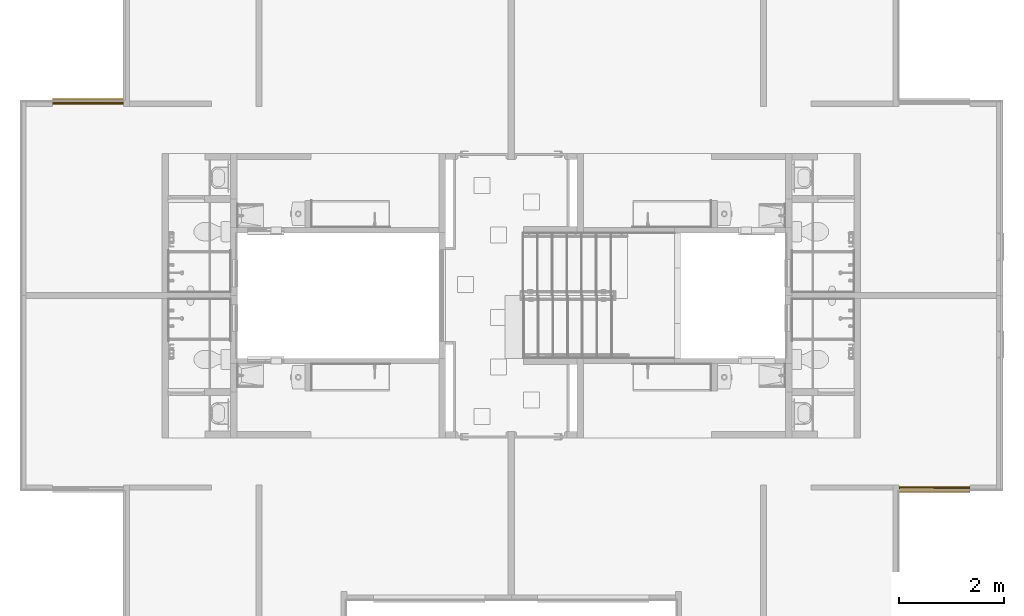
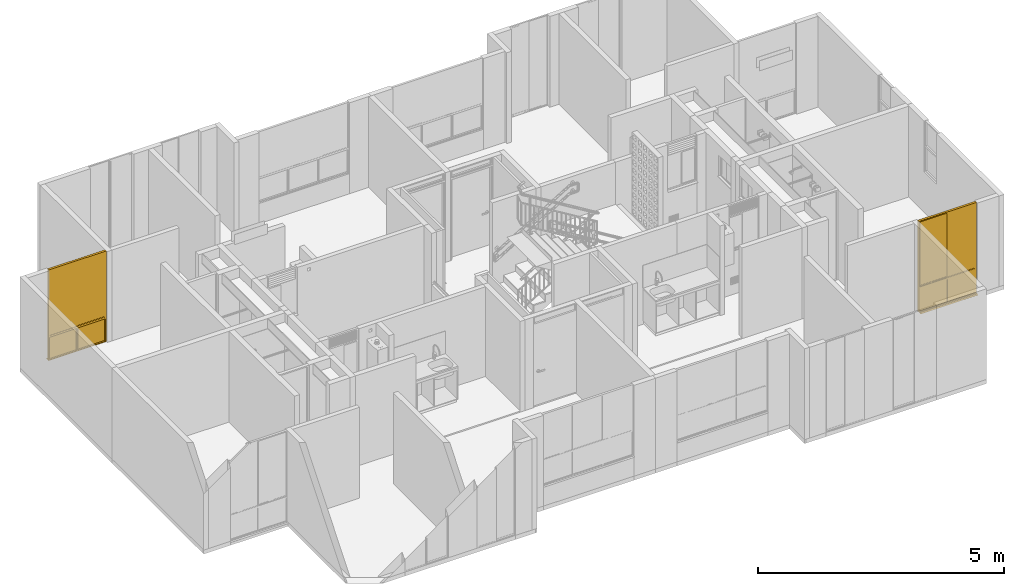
# One storey, part 35 of 48: 2 windows.
"""IFC4 building model written with IfcOpenShell, lengths in metres."""

from ifc_helpers import new_model, entity, si_unit, converted_unit, derived_unit, direction, frame, origin, place, context, subcontext, project, spatial, polygons, source, transform, mapped, material, constituent, constituent_set, type_object, type_shapes, element, save


model = new_model("IFC4")

# Units and contexts
model_context = context("Model", 3, precision=1e-05, world=origin(), true_north=direction((6.123031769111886e-17, 1.0)))
body_context = subcontext(model_context, "Body", "Model", "MODEL_VIEW")
ifc_project = project(units=[si_unit("LENGTHUNIT", "METRE"), si_unit("AREAUNIT", "SQUARE_METRE"), si_unit("VOLUMEUNIT", "CUBIC_METRE"), converted_unit("PLANEANGLEUNIT", "DEGREE", entity("IfcRatioMeasure", 0.017453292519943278), si_unit("PLANEANGLEUNIT", "RADIAN"), dimensions=[0, 0, 0, 0, 0, 0, 0]), si_unit("MASSUNIT", "GRAM", prefix="KILO"), derived_unit("MASSDENSITYUNIT", [(si_unit("MASSUNIT", "GRAM", prefix="KILO"), 1), (si_unit("LENGTHUNIT", "METRE"), -3)]), derived_unit("IONCONCENTRATIONUNIT", [(si_unit("MASSUNIT", "GRAM", prefix="KILO"), 1), (si_unit("LENGTHUNIT", "METRE"), -3)]), derived_unit("MOMENTOFINERTIAUNIT", [(si_unit("LENGTHUNIT", "METRE"), 4)]), si_unit("TIMEUNIT", "SECOND"), si_unit("FREQUENCYUNIT", "HERTZ"), si_unit("THERMODYNAMICTEMPERATUREUNIT", "DEGREE_CELSIUS"), derived_unit("THERMALTRANSMITTANCEUNIT", [(si_unit("MASSUNIT", "GRAM", prefix="KILO"), 1), (si_unit("THERMODYNAMICTEMPERATUREUNIT", "KELVIN"), -1), (si_unit("TIMEUNIT", "SECOND"), -3)]), derived_unit("THERMALCONDUCTANCEUNIT", [(si_unit("MASSUNIT", "GRAM", prefix="KILO"), 1), (si_unit("THERMODYNAMICTEMPERATUREUNIT", "KELVIN"), -1), (si_unit("TIMEUNIT", "SECOND"), -3), (si_unit("LENGTHUNIT", "METRE"), 1)]), derived_unit("VOLUMETRICFLOWRATEUNIT", [(si_unit("LENGTHUNIT", "METRE"), 3), (si_unit("TIMEUNIT", "SECOND"), -1)]), derived_unit("MASSFLOWRATEUNIT", [(si_unit("MASSUNIT", "GRAM", prefix="KILO"), 1), (si_unit("TIMEUNIT", "SECOND"), -1)]), derived_unit("ROTATIONALFREQUENCYUNIT", [(si_unit("TIMEUNIT", "SECOND"), -1)]), si_unit("ELECTRICCURRENTUNIT", "AMPERE"), si_unit("ELECTRICVOLTAGEUNIT", "VOLT"), si_unit("POWERUNIT", "WATT"), si_unit("FORCEUNIT", "NEWTON", prefix="KILO"), si_unit("ILLUMINANCEUNIT", "LUX"), si_unit("LUMINOUSFLUXUNIT", "LUMEN"), si_unit("LUMINOUSINTENSITYUNIT", "CANDELA"), derived_unit("USERDEFINED", [(si_unit("MASSUNIT", "GRAM", prefix="KILO"), -1), (si_unit("LENGTHUNIT", "METRE"), -2), (si_unit("TIMEUNIT", "SECOND"), 3), (si_unit("LUMINOUSFLUXUNIT", "LUMEN"), 1)]), derived_unit("USERDEFINED", [(si_unit("MASSUNIT", "GRAM", prefix="KILO"), 1), (si_unit("TIMEUNIT", "SECOND"), -3), (si_unit("LENGTHUNIT", "METRE"), 3), (si_unit("ELECTRICCURRENTUNIT", "AMPERE"), -2)]), derived_unit("SOUNDPOWERUNIT", [(si_unit("MASSUNIT", "GRAM", prefix="KILO"), 1), (si_unit("TIMEUNIT", "SECOND"), -3), (si_unit("LENGTHUNIT", "METRE"), 2)]), derived_unit("SOUNDPRESSUREUNIT", [(si_unit("MASSUNIT", "GRAM", prefix="KILO"), 1), (si_unit("LENGTHUNIT", "METRE"), -1), (si_unit("TIMEUNIT", "SECOND"), -2)]), derived_unit("LINEARVELOCITYUNIT", [(si_unit("LENGTHUNIT", "METRE"), 1), (si_unit("TIMEUNIT", "SECOND"), -1)]), si_unit("PRESSUREUNIT", "PASCAL"), derived_unit("USERDEFINED", [(si_unit("MASSUNIT", "GRAM", prefix="KILO"), 1), (si_unit("LENGTHUNIT", "METRE"), -2), (si_unit("TIMEUNIT", "SECOND"), -2)]), derived_unit("LINEARFORCEUNIT", [(si_unit("MASSUNIT", "GRAM", prefix="KILO"), 1), (si_unit("TIMEUNIT", "SECOND"), -2)]), derived_unit("PLANARFORCEUNIT", [(si_unit("MASSUNIT", "GRAM", prefix="KILO"), 1), (si_unit("LENGTHUNIT", "METRE"), -1), (si_unit("TIMEUNIT", "SECOND"), -2)]), derived_unit("SPECIFICHEATCAPACITYUNIT", [(si_unit("THERMODYNAMICTEMPERATUREUNIT", "KELVIN"), -1), (si_unit("LENGTHUNIT", "METRE"), 2), (si_unit("TIMEUNIT", "SECOND"), -2)]), derived_unit("HEATINGVALUEUNIT", [(si_unit("LENGTHUNIT", "METRE"), 2), (si_unit("TIMEUNIT", "SECOND"), -2)]), derived_unit("VAPORPERMEABILITYUNIT", [(si_unit("LENGTHUNIT", "METRE"), -1), (si_unit("TIMEUNIT", "SECOND"), 1)]), derived_unit("DYNAMICVISCOSITYUNIT", [(si_unit("MASSUNIT", "GRAM", prefix="KILO"), 1), (si_unit("TIMEUNIT", "SECOND"), -1), (si_unit("LENGTHUNIT", "METRE"), -1)]), derived_unit("THERMALEXPANSIONCOEFFICIENTUNIT", [(si_unit("THERMODYNAMICTEMPERATUREUNIT", "KELVIN"), -1)]), derived_unit("MODULUSOFELASTICITYUNIT", [(si_unit("MASSUNIT", "GRAM", prefix="KILO"), 1), (si_unit("LENGTHUNIT", "METRE"), -1), (si_unit("TIMEUNIT", "SECOND"), -2)]), derived_unit("ISOTHERMALMOISTURECAPACITYUNIT", [(si_unit("LENGTHUNIT", "METRE"), 3), (si_unit("MASSUNIT", "GRAM", prefix="KILO"), -1)]), derived_unit("MOISTUREDIFFUSIVITYUNIT", [(si_unit("TIMEUNIT", "SECOND"), -1), (si_unit("LENGTHUNIT", "METRE"), 2)])], contexts=[model_context])

# Site, building, storey
site_placement = place(None, origin())
site = spatial("IfcSite", under=ifc_project, at=site_placement, Name="Default", CompositionType="ELEMENT")
building_placement = place(site_placement, origin())
building = spatial("IfcBuilding", under=site, at=building_placement, CompositionType="ELEMENT")
storey_placement = place(building_placement, frame((0.0, 0.0, 7.050000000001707)))
storey = spatial("IfcBuildingStorey", under=building, at=storey_placement, Name="Nivel 4", CompositionType="ELEMENT", Elevation=7.050000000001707)

# Windows
ifc_material_1 = material(Name="Vidrio", Category="Materials")
ifc_constituent_1 = constituent(ifc_material_1, Name="Vidrio", Category="Materials")
ifc_material_2 = material(Name="Aluminio", Category="Materials")
ifc_constituent_2 = constituent(ifc_material_2, Name="Aluminio", Category="Materials")
ifc_material_3 = material(Name="<Unnamed>")
ifc_constituent_3 = constituent(ifc_material_3, Name="<Unnamed>")
ifc_constituent_set_1 = constituent_set(constituents=[ifc_constituent_1, ifc_constituent_2, ifc_constituent_3])
ifc_constituent_4 = constituent(ifc_material_1, Name="Vidrio", Category="Materials")
ifc_constituent_5 = constituent(ifc_material_2, Name="Aluminio", Category="Materials")
ifc_constituent_6 = constituent(ifc_material_3, Name="<Unnamed>")
ifc_constituent_set_2 = constituent_set(constituents=[ifc_constituent_4, ifc_constituent_5, ifc_constituent_6])
window_type = type_object("IfcWindowType", Name="B2020 - Ventana corrediza - Aluminio + Vidrio:B2020 - 1.35m x 2.25m - Ventana corrediza 2C - Aluminio + Vidrio", PartitioningType="NOTDEFINED", PredefinedType="WINDOW", material=ifc_constituent_set_2)
shared_shape = source(origin(), body_context, "Body", "Tessellation", [
    polygons([(0.020000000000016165, 0.044249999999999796, 2.2300000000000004), (0.020000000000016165, 0.044249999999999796, 0.6174999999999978), (0.6750000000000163, 0.04424999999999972, 0.6174999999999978), (0.6750000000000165, 0.04424999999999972, 2.2300000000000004), (0.6750000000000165, 0.04824999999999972, 2.2300000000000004), (0.020000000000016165, 0.04824999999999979, 2.2300000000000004), (0.6750000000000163, 0.04824999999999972, 0.6174999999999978), (0.020000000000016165, 0.04824999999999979, 0.6174999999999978)], [[[1, 2, 3, 4]], [[4, 5, 6, 1]], [[3, 7, 5, 4]], [[1, 6, 8, 2]], [[6, 5, 7, 8]], [[2, 8, 7, 3]]], closed=True),
    polygons([(1.3300000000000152, 0.04424999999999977, 2.2300000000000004), (0.6700000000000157, 0.044249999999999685, 2.2300000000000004), (0.6700000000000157, 0.044249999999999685, 0.6174999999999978), (1.3300000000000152, 0.04424999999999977, 0.6174999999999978), (1.3300000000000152, 0.048249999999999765, 0.6174999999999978), (1.3300000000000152, 0.048249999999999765, 2.2300000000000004), (0.6700000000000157, 0.04824999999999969, 2.2300000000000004), (0.6700000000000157, 0.04824999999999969, 0.6174999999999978)], [[[1, 2, 3, 4]], [[4, 5, 6, 1]], [[2, 7, 8, 3]], [[1, 6, 7, 2]], [[6, 5, 8, 7]], [[3, 8, 5, 4]]], closed=True),
    polygons([(0.6700000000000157, 0.048249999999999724, 0.6174999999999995), (0.6700000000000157, 0.048249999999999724, 2.230000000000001), (0.6700000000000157, 0.044249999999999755, 2.230000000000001), (0.6700000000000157, 0.044249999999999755, 0.6174999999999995), (1.3300000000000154, 0.04424999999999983, 2.230000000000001), (1.3300000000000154, 0.04424999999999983, 0.6174999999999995), (0.685000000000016, 0.044249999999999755, 2.2150000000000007), (0.685000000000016, 0.044249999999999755, 0.6324999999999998), (1.315000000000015, 0.04424999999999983, 0.6324999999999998), (1.315000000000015, 0.04424999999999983, 2.2150000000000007), (1.3300000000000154, 0.0482499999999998, 2.230000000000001), (1.3300000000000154, 0.0482499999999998, 0.6174999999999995), (0.685000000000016, 0.048249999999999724, 0.6324999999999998), (0.685000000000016, 0.048249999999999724, 2.2150000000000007), (1.315000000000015, 0.04824999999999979, 2.2150000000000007), (1.315000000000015, 0.04824999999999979, 0.6324999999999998), (0.685000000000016, 0.05299999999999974, 0.6324999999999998), (0.685000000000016, 0.05299999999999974, 2.2150000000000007), (1.315000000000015, 0.05299999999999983, 2.2150000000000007), (1.315000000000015, 0.05299999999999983, 0.6324999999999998), (0.6650000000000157, 0.05299999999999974, 0.6124999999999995), (0.6650000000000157, 0.05299999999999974, 2.2350000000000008), (1.3350000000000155, 0.05299999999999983, 2.2350000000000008), (1.3350000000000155, 0.05299999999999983, 0.6124999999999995), (0.6650000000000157, 0.03949999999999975, 0.6124999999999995), (0.6650000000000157, 0.03949999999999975, 2.2350000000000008), (1.3350000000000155, 0.03949999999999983, 2.2350000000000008), (1.3350000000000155, 0.03949999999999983, 0.6124999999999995), (0.685000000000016, 0.03949999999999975, 0.6324999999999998), (0.685000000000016, 0.03949999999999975, 2.2150000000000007), (1.315000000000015, 0.03949999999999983, 2.2150000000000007), (1.315000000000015, 0.03949999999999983, 0.6324999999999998)], [[[1, 2, 3, 4]], [[4, 3, 5, 6], [7, 8, 9, 10]], [[2, 11, 5, 3]], [[2, 1, 12, 11], [13, 14, 15, 16]], [[17, 18, 14, 13]], [[18, 19, 15, 14]], [[21, 22, 23, 24], [18, 17, 20, 19]], [[25, 26, 22, 21]], [[26, 27, 23, 22]], [[26, 25, 28, 27], [29, 30, 31, 32]], [[8, 7, 30, 29]], [[7, 10, 31, 30]], [[11, 12, 6, 5]], [[19, 20, 16, 15]], [[27, 28, 24, 23]], [[10, 9, 32, 31]], [[12, 1, 4, 6]], [[20, 17, 13, 16]], [[28, 25, 21, 24]], [[9, 8, 29, 32]]], closed=True),
    polygons([(0.6800000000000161, 0.06674999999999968, 2.229999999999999), (0.02000000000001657, 0.06674999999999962, 2.229999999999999), (0.02000000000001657, 0.06674999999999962, 0.6174999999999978), (0.6800000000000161, 0.06674999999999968, 0.6174999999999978), (0.6800000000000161, 0.07074999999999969, 0.6174999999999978), (0.6800000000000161, 0.07074999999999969, 2.229999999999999), (0.02000000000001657, 0.0707499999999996, 2.229999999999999), (0.02000000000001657, 0.0707499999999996, 0.6174999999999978)], [[[1, 2, 3, 4]], [[4, 5, 6, 1]], [[2, 7, 8, 3]], [[1, 6, 7, 2]], [[6, 5, 8, 7]], [[3, 8, 5, 4]]], closed=True),
    polygons([(0.020000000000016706, 0.07074999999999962, 0.6175), (0.020000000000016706, 0.07074999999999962, 2.2299999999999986), (0.020000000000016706, 0.06674999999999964, 2.2299999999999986), (0.020000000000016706, 0.06674999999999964, 0.6175), (0.6800000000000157, 0.06674999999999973, 2.2299999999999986), (0.6800000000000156, 0.06674999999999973, 0.6175000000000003), (0.035000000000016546, 0.06674999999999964, 2.214999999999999), (0.035000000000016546, 0.06674999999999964, 0.6324999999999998), (0.6650000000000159, 0.06674999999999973, 0.6324999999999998), (0.6650000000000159, 0.06674999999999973, 2.214999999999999), (0.6800000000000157, 0.0707499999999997, 2.2299999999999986), (0.6800000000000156, 0.0707499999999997, 0.6175), (0.035000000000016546, 0.07074999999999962, 0.6324999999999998), (0.035000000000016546, 0.07074999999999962, 2.214999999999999), (0.6650000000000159, 0.0707499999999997, 2.214999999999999), (0.6650000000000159, 0.0707499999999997, 0.6324999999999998), (0.035000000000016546, 0.07549999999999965, 0.6324999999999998), (0.035000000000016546, 0.07549999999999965, 2.214999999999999), (0.6650000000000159, 0.07549999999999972, 2.214999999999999), (0.6650000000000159, 0.07549999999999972, 0.6324999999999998), (0.015000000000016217, 0.07549999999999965, 0.6124999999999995), (0.015000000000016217, 0.07549999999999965, 2.2349999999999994), (0.6850000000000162, 0.07549999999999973, 2.2349999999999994), (0.685000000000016, 0.07549999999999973, 0.6124999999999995), (0.015000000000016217, 0.06199999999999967, 0.6124999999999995), (0.015000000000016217, 0.06199999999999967, 2.2349999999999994), (0.6850000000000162, 0.06199999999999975, 2.2349999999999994), (0.685000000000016, 0.06199999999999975, 0.6124999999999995), (0.035000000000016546, 0.06199999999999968, 0.6324999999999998), (0.035000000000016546, 0.06199999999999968, 2.214999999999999), (0.6650000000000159, 0.06199999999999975, 2.214999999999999), (0.6650000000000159, 0.06199999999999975, 0.6324999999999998)], [[[1, 2, 3, 4]], [[4, 3, 5, 6], [7, 8, 9, 10]], [[2, 11, 5, 3]], [[2, 1, 12, 11], [13, 14, 15, 16]], [[17, 18, 14, 13]], [[18, 19, 15, 14]], [[21, 22, 23, 24], [18, 17, 20, 19]], [[25, 26, 22, 21]], [[26, 27, 23, 22]], [[26, 25, 28, 27], [29, 30, 31, 32]], [[8, 7, 30, 29]], [[7, 10, 31, 30]], [[11, 12, 6, 5]], [[19, 20, 16, 15]], [[27, 28, 24, 23]], [[10, 9, 32, 31]], [[12, 1, 4, 6]], [[20, 17, 13, 16]], [[28, 25, 21, 24]], [[9, 8, 29, 32]]], closed=True),
    polygons([(0.025000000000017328, 0.037499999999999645, 2.224999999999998), (1.3250000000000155, 0.037499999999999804, 2.2249999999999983), (1.3250000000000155, 0.03249999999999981, 2.2249999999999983), (0.025000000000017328, 0.03249999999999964, 2.224999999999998), (1.325000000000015, 0.037499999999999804, 0.6200000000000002), (1.3250000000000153, 0.03249999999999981, 0.6200000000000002), (0.025000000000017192, 0.03249999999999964, 0.6200000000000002), (1.3500000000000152, 0.03249999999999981, 0.595), (1.3500000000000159, 0.03249999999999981, 2.2499999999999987), (1.6919798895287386e-14, 0.03249999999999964, 2.2499999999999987), (1.6919798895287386e-14, 0.03249999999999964, 0.595), (0.025000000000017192, 0.037499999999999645, 0.6200000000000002), (1.345000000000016, 0.037499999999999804, 2.2449999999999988), (1.3450000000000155, 0.037499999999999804, 0.5999999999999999), (0.005000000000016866, 0.037499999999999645, 0.5999999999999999), (0.005000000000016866, 0.037499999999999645, 2.2449999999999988), (0.005000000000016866, 0.054999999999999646, 2.2449999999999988), (1.345000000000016, 0.05499999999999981, 2.2449999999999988), (1.3450000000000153, 0.05499999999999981, 0.5999999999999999), (0.005000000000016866, 0.054999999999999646, 0.5999999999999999), (1.3250000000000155, 0.054999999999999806, 2.2249999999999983), (1.3250000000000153, 0.054999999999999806, 0.6200000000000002), (0.025000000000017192, 0.05499999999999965, 0.6200000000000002), (0.025000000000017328, 0.05499999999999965, 2.2249999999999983), (0.025000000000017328, 0.05999999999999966, 2.224999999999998), (1.3250000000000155, 0.05999999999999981, 2.2249999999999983), (1.325000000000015, 0.05999999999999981, 0.6200000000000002), (0.025000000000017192, 0.05999999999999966, 0.6200000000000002), (1.345000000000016, 0.05999999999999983, 2.2449999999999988), (1.3450000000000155, 0.05999999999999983, 0.5999999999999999), (0.005000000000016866, 0.05999999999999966, 0.5999999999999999), (0.005000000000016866, 0.05999999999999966, 2.2449999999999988), (0.005000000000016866, 0.07749999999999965, 2.2449999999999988), (1.345000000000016, 0.07749999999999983, 2.2449999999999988), (1.3450000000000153, 0.07749999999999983, 0.5999999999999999), (0.005000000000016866, 0.07749999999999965, 0.5999999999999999), (1.3250000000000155, 0.07749999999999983, 2.2249999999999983), (1.3250000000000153, 0.07749999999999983, 0.6200000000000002), (0.025000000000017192, 0.07749999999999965, 0.6200000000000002), (0.025000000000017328, 0.07749999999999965, 2.2249999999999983), (0.025000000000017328, 0.08249999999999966, 2.224999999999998), (1.3250000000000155, 0.08249999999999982, 2.2249999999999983), (1.325000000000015, 0.08249999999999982, 0.6200000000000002), (0.025000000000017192, 0.08249999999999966, 0.6200000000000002), (1.3500000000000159, 0.08249999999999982, 2.2499999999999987), (1.3500000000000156, 0.08249999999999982, 0.595), (1.6919798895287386e-14, 0.08249999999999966, 0.595), (1.6919798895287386e-14, 0.08249999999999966, 2.2499999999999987)], [[[1, 2, 3, 4]], [[2, 5, 6, 3]], [[8, 9, 10, 11], [3, 6, 7, 4]], [[13, 14, 15, 16], [5, 2, 1, 12]], [[17, 18, 13, 16]], [[18, 19, 14, 13]], [[19, 18, 17, 20], [21, 22, 23, 24]], [[25, 26, 21, 24]], [[26, 27, 22, 21]], [[29, 30, 31, 32], [27, 26, 25, 28]], [[33, 34, 29, 32]], [[34, 35, 30, 29]], [[35, 34, 33, 36], [37, 38, 39, 40]], [[41, 42, 37, 40]], [[42, 43, 38, 37]], [[45, 46, 47, 48], [43, 42, 41, 44]], [[10, 9, 45, 48]], [[9, 8, 46, 45]], [[12, 1, 4, 7]], [[20, 17, 16, 15]], [[28, 25, 24, 23]], [[36, 33, 32, 31]], [[44, 41, 40, 39]], [[11, 10, 48, 47]], [[5, 12, 7, 6]], [[19, 20, 15, 14]], [[27, 28, 23, 22]], [[35, 36, 31, 30]], [[43, 44, 39, 38]], [[8, 11, 47, 46]]], closed=True),
    polygons([(1.330000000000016, 0.08250000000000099, 0.5749999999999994), (1.330000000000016, 0.08250000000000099, 0.020000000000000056), (1.330000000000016, 0.0324999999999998, 0.020000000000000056), (1.330000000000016, 0.03249999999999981, 0.5749999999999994), (0.6850000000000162, 0.08250000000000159, 0.01999999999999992), (0.6850000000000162, 0.03250000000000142, 0.01999999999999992), (1.3500000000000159, 0.03250000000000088, 0.5949999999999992), (1.3500000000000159, 0.03250000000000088, 2.707167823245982e-16), (1.3500000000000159, 0.08249999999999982, 2.707167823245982e-16), (1.3500000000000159, 0.08249999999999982, 0.5949999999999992), (1.624300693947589e-14, 0.03250000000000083, 2.707167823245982e-16), (1.624300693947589e-14, 0.08249999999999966, 2.707167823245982e-16), (0.020000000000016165, 0.08250000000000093, 0.020000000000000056), (0.020000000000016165, 0.08250000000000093, 0.5749999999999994), (0.02000000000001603, 0.03249999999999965, 0.5749999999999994), (0.02000000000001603, 0.03249999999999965, 0.020000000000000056), (1.624300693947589e-14, 0.03250000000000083, 0.5949999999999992), (1.624300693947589e-14, 0.08249999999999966, 0.5949999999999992), (0.6650000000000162, 0.08250000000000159, 0.5749999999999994), (0.6650000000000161, 0.03250000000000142, 0.5749999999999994), (0.6650000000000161, 0.08250000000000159, 0.01999999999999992), (0.6650000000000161, 0.03250000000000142, 0.01999999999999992), (0.6850000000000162, 0.03250000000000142, 0.5749999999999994), (0.6850000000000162, 0.08250000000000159, 0.5749999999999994)], [[[1, 2, 3, 4]], [[2, 5, 6, 3]], [[7, 8, 9, 10]], [[8, 11, 12, 9]], [[13, 14, 15, 16]], [[11, 17, 18, 12]], [[14, 19, 20, 15]], [[10, 18, 17, 7]], [[21, 22, 20, 19]], [[7, 17, 11, 8], [22, 16, 15, 20], [23, 4, 3, 6]], [[24, 23, 6, 5]], [[9, 12, 18, 10], [5, 2, 1, 24], [19, 14, 13, 21]], [[4, 23, 24, 1]], [[16, 22, 21, 13]]], closed=True),
    polygons([(0.6650000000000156, 0.07213901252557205, 0.019999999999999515), (0.6650000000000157, 0.06813901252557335, 0.019999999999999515), (0.020000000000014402, 0.06813901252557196, 0.019999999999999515), (0.020000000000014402, 0.07213901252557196, 0.019999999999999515), (0.6650000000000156, 0.07213901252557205, 0.5849999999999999), (0.020000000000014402, 0.07213901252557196, 0.5849999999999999), (0.020000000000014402, 0.06813901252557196, 0.5849999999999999), (0.6650000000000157, 0.06813901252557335, 0.5849999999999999)], [[[1, 2, 3, 4]], [[5, 1, 4, 6]], [[6, 4, 3, 7]], [[7, 3, 2, 8]], [[8, 2, 1, 5]], [[5, 6, 7, 8]]], closed=True),
    polygons([(0.6850000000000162, 0.07213901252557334, 0.019999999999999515), (1.3300000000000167, 0.07213901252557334, 0.019999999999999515), (1.3300000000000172, 0.06813901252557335, 0.019999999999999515), (0.6850000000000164, 0.06813901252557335, 0.019999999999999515), (0.6850000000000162, 0.07213901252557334, 0.5849999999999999), (0.6850000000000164, 0.06813901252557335, 0.5849999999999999), (1.3300000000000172, 0.06813901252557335, 0.5849999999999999), (1.3300000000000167, 0.07213901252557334, 0.5849999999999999)], [[[1, 2, 3, 4]], [[5, 1, 4, 6]], [[6, 4, 3, 7]], [[7, 3, 2, 8]], [[8, 2, 1, 5]], [[5, 6, 7, 8]]], closed=True),
    polygons([(1.350000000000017, 0.11499999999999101, -4.060751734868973e-16), (1.350000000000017, 0.14098076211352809, -0.015000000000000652), (1.350000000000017, 0.14348076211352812, -0.010669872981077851), (1.350000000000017, 0.11633974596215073, 0.0049999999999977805), (1.350000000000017, 0.08249999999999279, 0.0049999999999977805), (1.350000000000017, 0.08249999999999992, -4.060751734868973e-16), (1.7461232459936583e-14, 0.11499999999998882, -4.060751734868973e-16), (1.7461232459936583e-14, 0.08249999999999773, -4.060751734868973e-16), (1.7461232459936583e-14, 0.08249999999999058, 0.0049999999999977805), (1.7461232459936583e-14, 0.11633974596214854, 0.0049999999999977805), (1.7325874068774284e-14, 0.14348076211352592, -0.010669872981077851), (1.7325874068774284e-14, 0.1409807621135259, -0.015000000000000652)], [[[1, 2, 3, 4, 5, 6]], [[7, 8, 9, 10, 11, 12]], [[6, 8, 7, 1]], [[5, 9, 8, 6]], [[4, 10, 9, 5]], [[3, 11, 10, 4]], [[2, 12, 11, 3]], [[1, 7, 12, 2]]], closed=True),
])
type_shapes(window_type, [shared_shape])
window_1_placement = place(storey_placement, frame((0.5674999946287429, -2.810000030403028, 0.0)))
element("IfcWindow", 1, at=window_1_placement, inside=storey, type_object=window_type, material=ifc_constituent_set_1, Name="B2020 - Ventana corrediza - Aluminio + Vidrio:B2020 - 1.35m x 2.25m - Ventana corrediza 2C - Aluminio + Vidrio", ObjectType="B2020 - Ventana corrediza - Aluminio + Vidrio:B2020 - 1.35m x 2.25m - Ventana corrediza 2C - Aluminio + Vidrio", OverallHeight=2.265, OverallWidth=1.3500000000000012, PartitioningType="NOTDEFINED", PredefinedType="WINDOW", context=body_context, shape_type="MappedRepresentation", body=[
    mapped(shared_shape, transform((0.0, 0.0, 0.0), scale=1.0)),
])
ifc_constituent_7 = constituent(ifc_material_1, Name="Vidrio", Category="Materials")
ifc_constituent_8 = constituent(ifc_material_2, Name="Aluminio", Category="Materials")
ifc_constituent_9 = constituent(ifc_material_3, Name="<Unnamed>")
ifc_constituent_set_3 = constituent_set(constituents=[ifc_constituent_7, ifc_constituent_8, ifc_constituent_9])
window_2_placement = place(storey_placement, frame((18.077500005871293, -10.040000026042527, 0.0), z_axis=(0.0, 0.0, 1.0), x_axis=(-1.0, 0.0, 0.0)))
element("IfcWindow", 2, at=window_2_placement, inside=storey, type_object=window_type, material=ifc_constituent_set_3, Name="B2020 - Ventana corrediza - Aluminio + Vidrio:B2020 - 1.35m x 2.25m - Ventana corrediza 2C - Aluminio + Vidrio", ObjectType="B2020 - Ventana corrediza - Aluminio + Vidrio:B2020 - 1.35m x 2.25m - Ventana corrediza 2C - Aluminio + Vidrio", OverallHeight=2.265, OverallWidth=1.3500000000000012, PartitioningType="NOTDEFINED", PredefinedType="WINDOW", context=body_context, shape_type="MappedRepresentation", body=[
    mapped(shared_shape, transform((0.0, 0.0, 0.0), scale=1.0)),
])

save(model, "model.ifc")
